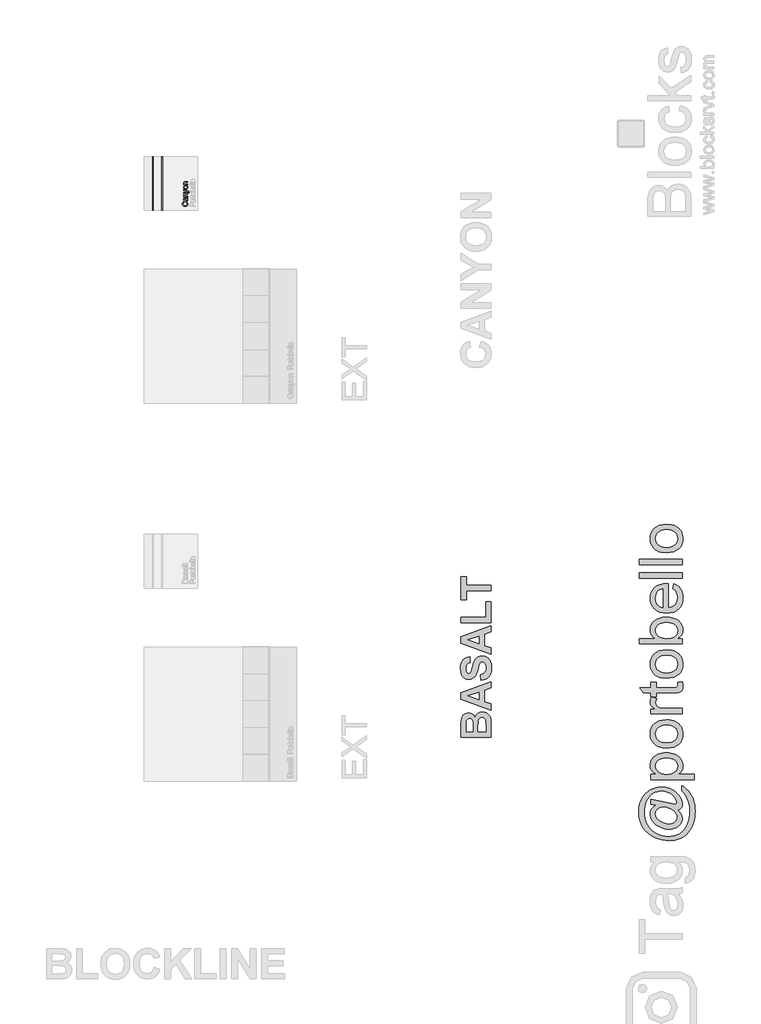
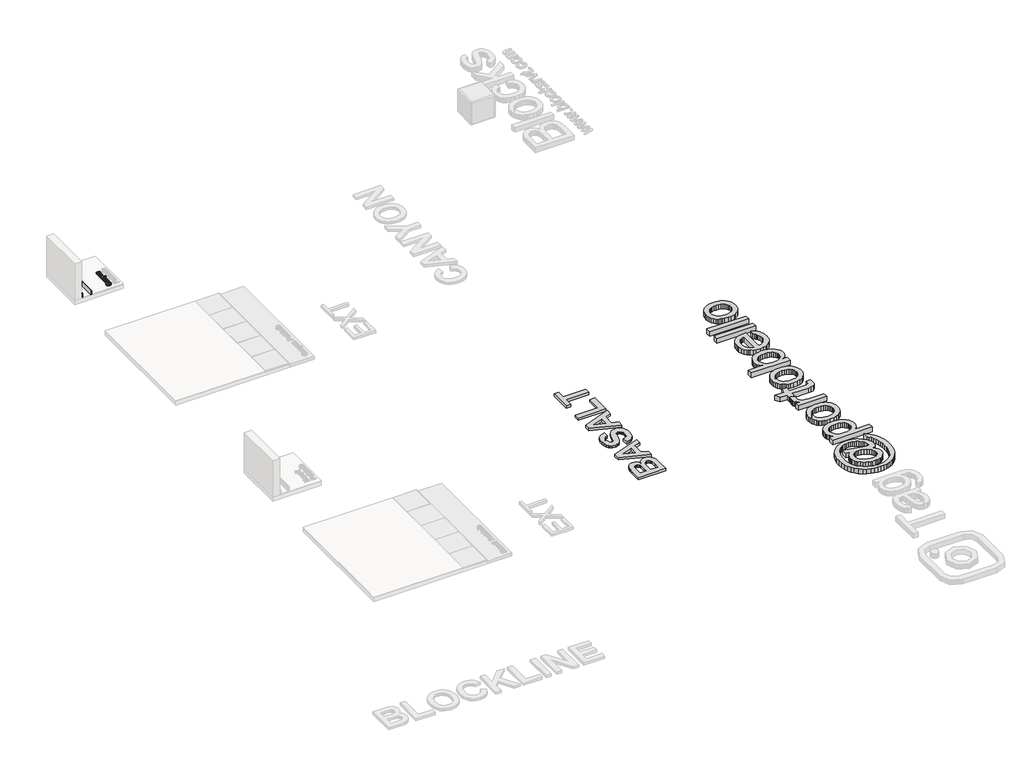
# One storey, part 5 of 6: 5 proxies.
"""IFC4 building model written with IfcOpenShell, lengths in millimetres."""

import ifcopenshell
import ifcopenshell.guid

model = None  # the IFC model being written
_history = None  # IfcOwnerHistory: only IFC2X3 demands one
_inside = {}  # id of a spatial element -> (the spatial element, [elements in it])
_under = {}  # id of a project, library or spatial element -> (it, [spatial elements below it])
_declared = {}  # id of a project -> (the project, [libraries it declares])
_typed = {}  # id of a type object -> (the type object, [elements of that type])
_made_of = {}  # id of a material, layer set ... -> (it, [elements and type objects made of it])


def new_model(schema):
    """Start an empty IFC model of exactly this schema.

    Asked for "IFC4X3", IfcOpenShell would pick the latest addendum, in which some entities
    have other attributes; the version numbers below select the first issue.
    IFC2X3 requires an IfcOwnerHistory on every rooted entity: one is made here for all.
    """
    global model, _history
    if schema == "IFC4X3":
        model = ifcopenshell.file(schema_version=(4, 3, 0, 0))
    else:
        model = ifcopenshell.file(schema=schema)
    _inside.clear()
    _under.clear()
    _declared.clear()
    _typed.clear()
    _made_of.clear()
    _history = None
    if model.schema == "IFC2X3":
        org = make("IfcOrganization", Name="unknown")
        user = make(
            "IfcPersonAndOrganization",
            ThePerson=make("IfcPerson", FamilyName="unknown"),
            TheOrganization=org,
        )
        app = make(
            "IfcApplication",
            ApplicationDeveloper=org,
            Version="unknown",
            ApplicationFullName="unknown",
            ApplicationIdentifier="unknown",
        )
        _history = make(
            "IfcOwnerHistory",
            OwningUser=user,
            OwningApplication=app,
            ChangeAction="ADDED",
            CreationDate=0,
        )
    return model


def make(cls, **values):
    """One entity of the class cls with the attributes given. An attribute that is None is left unset."""
    return model.create_entity(
        cls, **{name: value for name, value in values.items() if value is not None}
    )


def rooted(cls, **values):
    """An entity with a GlobalId (a new one), such as an element, a storey or a relation."""
    return make(cls, GlobalId=ifcopenshell.guid.new(), OwnerHistory=_history, **values)


def si_unit(unit_type, name, prefix=None):
    """IfcSIUnit, for example si_unit("LENGTHUNIT", "METRE", prefix="MILLI")."""
    return make("IfcSIUnit", UnitType=unit_type, Prefix=prefix, Name=name)


def assignment(units):
    """IfcUnitAssignment: the units of a project."""
    return None if units is None else make("IfcUnitAssignment", Units=units)


def point(xyz):
    """IfcCartesianPoint."""
    return None if xyz is None else make("IfcCartesianPoint", Coordinates=xyz)


def direction(xyz):
    """IfcDirection."""
    return None if xyz is None else make("IfcDirection", DirectionRatios=xyz)


def frame(location, z_axis=None, x_axis=None):
    """IfcAxis2Placement3D, a coordinate frame: its origin and axes. An axis left out is left unset."""
    return make(
        "IfcAxis2Placement3D",
        Location=point(location),
        Axis=direction(z_axis),
        RefDirection=direction(x_axis),
    )


def frame_2d(location, x_axis=None):
    """IfcAxis2Placement2D, a coordinate frame in the plane: its origin and x axis."""
    return make(
        "IfcAxis2Placement2D", Location=point(location), RefDirection=direction(x_axis)
    )


def origin():
    """The frame at (0, 0, 0) with its axes left unset."""
    return frame((0.0, 0.0, 0.0))


def origin_with_axes():
    """The frame at (0, 0, 0) with the z axis (0, 0, 1) and the x axis (1, 0, 0) written out."""
    return frame((0.0, 0.0, 0.0), z_axis=(0.0, 0.0, 1.0), x_axis=(1.0, 0.0, 0.0))


def place(relative_to, where):
    """IfcLocalPlacement: puts the frame where relative to a parent placement (None: the world)."""
    return make(
        "IfcLocalPlacement", PlacementRelTo=relative_to, RelativePlacement=where
    )


def context(
    kind, dimensions, precision=None, world=None, true_north=None, identifier=None
):
    """IfcGeometricRepresentationContext, for example the 3D "Model" context."""
    return make(
        "IfcGeometricRepresentationContext",
        ContextIdentifier=identifier,
        ContextType=kind,
        CoordinateSpaceDimension=dimensions,
        Precision=precision,
        WorldCoordinateSystem=world,
        TrueNorth=true_north,
    )


def project(units=None, contexts=None):
    """IfcProject with its units and contexts."""
    return rooted(
        "IfcProject",
        Name="project",
        RepresentationContexts=contexts,
        UnitsInContext=assignment(units),
    )


def spatial(cls, under=None, at=None, **own):
    """A site, building, storey or space (cls), placed at a placement, below another one or the project."""
    s = rooted(cls, ObjectPlacement=at, **own)
    if under is not None:
        _under.setdefault(under.id(), (under, []))[1].append(s)
    return s


def polyline(points):
    """IfcPolyline through the points."""
    return make("IfcPolyline", Points=[point(p) for p in points])


def circle_curve(where, radius):
    """IfcCircle in the frame where."""
    return make("IfcCircle", Position=where, Radius=radius)


def trimmed(basis, trim1, trim2, sense, master):
    """IfcTrimmedCurve: the piece of a basis curve between two trims."""
    return make(
        "IfcTrimmedCurve",
        BasisCurve=basis,
        Trim1=trim1,
        Trim2=trim2,
        SenseAgreement=sense,
        MasterRepresentation=master,
    )


def segment(curve, same_sense, transition):
    """IfcCompositeCurveSegment."""
    return make(
        "IfcCompositeCurveSegment",
        Transition=transition,
        SameSense=same_sense,
        ParentCurve=curve,
    )


def composite_curve(segments, self_intersect=None):
    """IfcCompositeCurve: segments joined end to end."""
    return make("IfcCompositeCurve", Segments=segments, SelfIntersect=self_intersect)


def outline(outer, holes=None, kind="AREA"):
    """IfcArbitraryClosedProfileDef: a profile drawn as a closed curve; with holes, ...WithVoids."""
    if holes is None:
        return make("IfcArbitraryClosedProfileDef", ProfileType=kind, OuterCurve=outer)
    return make(
        "IfcArbitraryProfileDefWithVoids",
        ProfileType=kind,
        OuterCurve=outer,
        InnerCurves=holes,
    )


def extrude(swept, where, along, depth):
    """IfcExtrudedAreaSolid: the profile swept, set in the frame where, extruded along a direction by depth."""
    return make(
        "IfcExtrudedAreaSolid",
        SweptArea=swept,
        Position=where,
        ExtrudedDirection=direction(along),
        Depth=depth,
    )


def shape(context_of_items, identifier, shape_type, items):
    """IfcShapeRepresentation: the items that make up one representation, for example the "Body"."""
    return make(
        "IfcShapeRepresentation",
        ContextOfItems=context_of_items,
        RepresentationIdentifier=identifier,
        RepresentationType=shape_type,
        Items=items,
    )


def source(mapping_origin, context_of_items, identifier, shape_type, items):
    """IfcRepresentationMap: a shape defined once, which mapped items show again and again."""
    return make(
        "IfcRepresentationMap",
        MappingOrigin=mapping_origin,
        MappedRepresentation=shape(context_of_items, identifier, shape_type, items),
    )


def transform(
    local_origin,
    x_axis=None,
    y_axis=None,
    z_axis=None,
    scale=None,
    scale2=None,
    scale3=None,
    uniform=True,
):
    """IfcCartesianTransformationOperator3D, or its non-uniform kind. x_axis, y_axis, z_axis: its Axis1, 2, 3."""
    if uniform:
        return make(
            "IfcCartesianTransformationOperator3D",
            Axis1=direction(x_axis),
            Axis2=direction(y_axis),
            LocalOrigin=point(local_origin),
            Scale=scale,
            Axis3=direction(z_axis),
        )
    return make(
        "IfcCartesianTransformationOperator3DnonUniform",
        Axis1=direction(x_axis),
        Axis2=direction(y_axis),
        LocalOrigin=point(local_origin),
        Scale=scale,
        Axis3=direction(z_axis),
        Scale2=scale2,
        Scale3=scale3,
    )


def mapped(mapping_source, mapping_target):
    """IfcMappedItem: shows the shape of a source again, moved by a transform."""
    return make(
        "IfcMappedItem", MappingSource=mapping_source, MappingTarget=mapping_target
    )


def made_of(thing, what):
    """Note that an element or type object is made of a material, layer set ...; save() writes the relation."""
    if what is not None:
        _made_of.setdefault(what.id(), (what, []))[1].append(thing)
    return thing


def element(
    cls,
    number,
    at=None,
    inside=None,
    cuts=None,
    type_object=None,
    material=None,
    context=None,
    identifier="Body",
    shape_type=None,
    held_by="IfcProductDefinitionShape",
    body=None,
    shapes=None,
    **own,
):
    """One element of the class cls, such as IfcWall. Its Tag is "e" and its number.

    at: its placement. inside: the storey or other place that contains it. cuts: it is an
    opening in that element (IfcRelVoidsElement). A single representation is given by context,
    identifier, shape_type and body (its items); several are given by shapes. held_by: the class
    of the entity that holds the representations. save() writes the other relations.
    """
    e = rooted(cls, Tag="e%d" % number, ObjectPlacement=at, **own)
    if body is not None:
        shapes = [shape(context, identifier, shape_type, body)]
    if shapes is not None:
        e.Representation = make(held_by, Representations=shapes)
    if inside is not None:
        _inside.setdefault(inside.id(), (inside, []))[1].append(e)
    if cuts is not None:
        rooted(
            "IfcRelVoidsElement", RelatingBuildingElement=cuts, RelatedOpeningElement=e
        )
    if type_object is not None:
        _typed.setdefault(type_object.id(), (type_object, []))[1].append(e)
    return made_of(e, material)


def aggregate(whole, parts):
    """IfcRelAggregates: a whole, such as a stair, and the parts it consists of."""
    return rooted("IfcRelAggregates", RelatingObject=whole, RelatedObjects=parts)


def save(model, path):
    """Write the relations noted so far, then the file.

    IfcRelAggregates (storeys below a building ...), IfcRelContainedInSpatialStructure (elements
    in a storey), IfcRelDefinesByType, IfcRelAssociatesMaterial and IfcRelDeclares: one each for
    every whole, place, type object, material and project.
    """
    for whole, parts in _under.values():
        aggregate(whole, parts)
    for where, things in _inside.values():
        rooted(
            "IfcRelContainedInSpatialStructure",
            RelatedElements=things,
            RelatingStructure=where,
        )
    for kind, things in _typed.values():
        rooted("IfcRelDefinesByType", RelatedObjects=things, RelatingType=kind)
    for what, things in _made_of.values():
        rooted("IfcRelAssociatesMaterial", RelatedObjects=things, RelatingMaterial=what)
    for by, libraries in _declared.values():
        rooted("IfcRelDeclares", RelatingContext=by, RelatedDefinitions=libraries)
    model.write(path)


def skirt_basalt_be9242f7(model_context):
    return source(origin(), model_context, "Body", "SweptSolid", [
        extrude(outline(composite_curve([segment(polyline([(0.0, 99.9999099), (0.0, 0.0), (-20.0, 0.0), (-20.0, 86.2999099)]), True, "CONTINUOUS"), segment(trimmed(circle_curve(frame_2d((-6.3, 86.2999099)), 13.7), [point((-20.0, 86.2999099))], [point((-6.3, 99.9999099))], False, "CARTESIAN"), True, "CONTINUOUS"), segment(polyline([(-6.3, 99.9999099), (0.0, 99.9999099)]), True, "CONTINUOUS")], self_intersect=False)), frame((0.0, 0.0, 0.0), z_axis=(1.0, 0.0, 0.0), x_axis=(0.0, 1.0, 0.0)), (0.0, 0.0, 1.0), 1000.0),
    ])


model = new_model("IFC4")

# Units and contexts
model_context = context("Model", 3, world=origin())
ifc_project = project(units=[si_unit("LENGTHUNIT", "METRE", prefix="MILLI")], contexts=[model_context])

# Site, building, storey
site = spatial("IfcSite", under=ifc_project)
building = spatial("IfcBuilding", under=site)
storey = spatial("IfcBuildingStorey", under=building, Name="PORTOBELLO - SHOWROOM", Elevation=0.0)

# Proxies
placement = place(None, origin())
element("IfcBuildingElementProxy", 1, Name="RODAPÉ BLOCKLINE SKIRT CANYON 50X10 EXT BOLD", ObjectType="RODAPÉ BLOCKLINE SKIRT CANYON 50X10 EXT BOLD", at=placement, inside=storey, context=model_context, shape_type="SweptSolid", body=[
    extrude(outline(composite_curve([segment(polyline([(115.9999099, -5641.9813168), (16.0, -5641.9813168), (16.0, -5621.9813168), (102.2999099, -5621.9813168)]), True, "CONTINUOUS"), segment(trimmed(circle_curve(frame_2d((102.2999099, -5635.6813168)), 13.7), [point((102.2999099, -5621.9813168))], [point((115.9999099, -5635.6813168))], False, "CARTESIAN"), True, "CONTINUOUS"), segment(polyline([(115.9999099, -5635.6813168), (115.9999099, -5641.9813168)]), True, "CONTINUOUS")], self_intersect=False)), frame((0.0, 2198.391761, 0.0), z_axis=(0.0, 1.0, 0.0), x_axis=(0.0, 0.0, 1.0)), (0.0, 0.0, 1.0), 1000.0),
])
element("IfcBuildingElementProxy", 2, Name="10mm Arial", ObjectType="10mm Arial", at=placement, inside=storey, context=model_context, shape_type="SweptSolid", body=[
    extrude(outline(polyline([(-5014.5282324, 2346.6708953), (-5011.2908709, 2359.227934), (-4996.6583645, 2353.4337926), (-4985.9683269, 2344.340976), (-4979.4292244, 2332.3970738), (-4977.2495236, 2318.049676), (-4978.8988612, 2303.4846147), (-4983.846874, 2291.9177916), (-4991.9218838, 2283.0518356), (-5002.9522123, 2276.5893752), (-5029.807598, 2271.3286626), (-5044.4554327, 2272.815519), (-5057.104442, 2277.2760882), (-5067.3530212, 2284.4773783), (-5074.799566, 2294.1863973), (-5079.3337116, 2305.7011037), (-5080.8450934, 2318.3194562), (-5078.8891875, 2332.0874398), (-5073.0214697, 2343.4703219), (-5063.6036906, 2352.1124831), (-5050.9976009, 2357.6583042), (-5048.005494, 2345.1012654), (-5063.444275, 2334.8005695), (-5068.2880546, 2317.8289468), (-5062.9169775, 2298.1840483), (-5048.4960033, 2287.0862748), (-5029.8321234, 2283.8857014), (-5008.2006621, 2287.674886), (-4994.3805618, 2299.4716353), (-4989.8065623, 2316.7988772), (-4991.3639295, 2327.2804484), (-4996.0360308, 2336.0145801), (-5003.7738154, 2342.6088649), (-5014.5282324, 2346.6708953)])), frame((0.0, 0.0, 16.0), z_axis=(0.0, 0.0, 1.0), x_axis=(1.0, 0.0, 0.0)), (0.0, 0.0, 1.0), 20.0),
    extrude(outline(polyline([(-4988.2369325, 2422.0131279), (-4979.7265957, 2409.8362338), (-4977.2495236, 2396.3840155), (-4978.7394457, 2385.8901816), (-4983.2092119, 2378.1493313), (-4989.9966347, 2373.3760624), (-4998.4395265, 2371.7849728), (-5008.3723404, 2374.1884685), (-5015.5828275, 2380.5037761), (-5019.7031058, 2389.2961558), (-5021.5915667, 2400.1609374), (-5025.9080488, 2421.9395515), (-5028.703952, 2422.0131279), (-5037.9745782, 2418.5550371), (-5041.6043473, 2404.6736232), (-5039.1885888, 2391.9694316), (-5030.6169383, 2385.9116414), (-5032.1865682, 2373.3546026), (-5044.4493014, 2378.7869934), (-5051.635263, 2389.7253514), (-5054.161386, 2406.2923039), (-5051.9295686, 2421.5103558), (-5046.3254995, 2430.1065318), (-5037.8029, 2433.95703), (-5026.8154911, 2434.5701666), (-5011.192769, 2434.5701666), (-4989.3773667, 2435.2078288), (-4978.8191534, 2437.7094263), (-4978.8191534, 2425.1523876), (-4988.2369325, 2422.0131279)]), holes=[polyline([(-5013.35101, 2422.0131279), (-5009.5005118, 2401.7550927), (-5007.4648981, 2390.9516247), (-5004.1539602, 2386.0587942), (-4999.3224433, 2384.3420116), (-4992.5288891, 2388.0821452), (-4989.8065623, 2399.0572914), (-4992.810932, 2411.7614829), (-5000.0827327, 2419.9529887), (-5009.7948174, 2421.9395515), (-5013.35101, 2422.0131279)])]), frame((0.0, 0.0, 16.0), z_axis=(0.0, 0.0, 1.0), x_axis=(1.0, 0.0, 0.0)), (0.0, 0.0, 1.0), 20.0),
    extrude(outline(polyline([(-4978.8191534, 2451.8360949), (-5052.5917562, 2451.8360949), (-5052.5917562, 2464.3931337), (-5042.2910603, 2464.3931337), (-5051.1938046, 2473.9948538), (-5054.161386, 2487.1037155), (-5051.7701531, 2498.9617785), (-5045.4916337, 2507.0551824), (-5036.2577956, 2510.8198415), (-5024.1176898, 2511.4820291), (-4978.8191534, 2511.4820291), (-4978.8191534, 2498.9249903), (-5022.4254326, 2498.9249903), (-5033.5354688, 2497.4779878), (-5039.409318, 2492.3644281), (-5041.6043473, 2483.7437267), (-5036.6747285, 2470.1198301), (-5029.5316865, 2465.8248078), (-5017.9617977, 2464.3931337), (-4978.8191534, 2464.3931337), (-4978.8191534, 2451.8360949)])), frame((0.0, 0.0, 16.0), z_axis=(0.0, 0.0, 1.0), x_axis=(1.0, 0.0, 0.0)), (0.0, 0.0, 1.0), 20.0),
    extrude(outline(polyline([(-4950.5658162, 2528.7479574), (-4962.6568711, 2527.1783276), (-4961.5532251, 2533.5549488), (-4962.938914, 2539.5146371), (-4966.8016749, 2543.1689316), (-4976.0477757, 2546.6024969), (-4979.0889336, 2547.5835156), (-5052.5917562, 2520.8998082), (-5052.5917562, 2534.1190345), (-5011.6097019, 2548.2947541), (-4995.2266904, 2553.2243728), (-5009.721241, 2558.1539915), (-5052.5917562, 2572.6975931), (-5052.5917562, 2585.8187176), (-4977.0533198, 2560.1405543), (-4960.6703083, 2553.4696275), (-4951.816615, 2546.185564), (-4948.9961863, 2536.4244284), (-4950.5658162, 2528.7479574)])), frame((0.0, 0.0, 16.0), z_axis=(0.0, 0.0, 1.0), x_axis=(1.0, 0.0, 0.0)), (0.0, 0.0, 1.0), 20.0),
    extrude(outline(polyline([(-5015.7054548, 2593.1027811), (-5033.4925493, 2595.8189765), (-5045.9944057, 2603.9675627), (-5052.119641, 2614.0352666), (-5054.161386, 2626.0895333), (-5051.6751169, 2639.2811685), (-5044.2163094, 2649.817922), (-5032.3735749, 2656.7249065), (-5016.7355244, 2659.0272346), (-4994.3928246, 2654.9560072), (-4981.7499467, 2643.0979442), (-4977.2495236, 2626.0895333), (-4979.7265957, 2612.7384826), (-4987.157812, 2602.2139918), (-4999.2488669, 2595.3805838), (-5015.7054548, 2593.1027811)]), holes=[polyline([(-5015.7299803, 2605.6598199), (-5004.3654923, 2607.1129537), (-4996.2690227, 2611.4723554), (-4991.4221774, 2618.0329176), (-4989.8065623, 2626.0895333), (-4991.4313745, 2634.1093608), (-4996.3058109, 2640.6576603), (-5004.5095794, 2645.017062), (-5016.1223877, 2646.4701959), (-5027.1557819, 2645.0078649), (-5035.1418869, 2640.6208721), (-5039.9887322, 2634.0633756), (-5041.6043473, 2626.0895333), (-5039.9948635, 2618.0329176), (-5035.1664124, 2611.4723554), (-5027.0883369, 2607.1129537), (-5015.7299803, 2605.6598199)])]), frame((0.0, 0.0, 16.0), z_axis=(0.0, 0.0, 1.0), x_axis=(1.0, 0.0, 0.0)), (0.0, 0.0, 1.0), 20.0),
    extrude(outline(polyline([(-4978.8191534, 2673.1539032), (-5052.5917562, 2673.1539032), (-5052.5917562, 2685.710942), (-5042.2910603, 2685.710942), (-5051.1938046, 2695.3126621), (-5054.161386, 2708.4215238), (-5051.7701531, 2720.2795868), (-5045.4916337, 2728.3729907), (-5036.2577956, 2732.1376498), (-5024.1176898, 2732.7998374), (-4978.8191534, 2732.7998374), (-4978.8191534, 2720.2427986), (-5022.4254326, 2720.2427986), (-5033.5354688, 2718.7957961), (-5039.409318, 2713.6822364), (-5041.6043473, 2705.061535), (-5036.6747285, 2691.4376384), (-5029.5316865, 2687.1426161), (-5017.9617977, 2685.710942), (-4978.8191534, 2685.710942), (-4978.8191534, 2673.1539032)])), frame((0.0, 0.0, 16.0), z_axis=(0.0, 0.0, 1.0), x_axis=(1.0, 0.0, 0.0)), (0.0, 0.0, 1.0), 20.0),
])
element("IfcBuildingElementProxy", 3, Name="550mm Arial", ObjectType="550mm Arial", at=placement, inside=storey, context=model_context, shape_type="SweptSolid", body=[
    extrude(outline(polyline([(108.0992, -7609.1746393), (108.0992, -7378.8445007), (109.4909229, -7319.1917782), (113.6660916, -7276.9007989), (122.2773769, -7245.0651377), (136.97745, -7216.7783699), (157.6445349, -7192.4754089), (184.156856, -7172.5911681), (215.3836384, -7159.3350076), (250.1941072, -7154.9162874), (288.118556, -7160.1874378), (322.8420422, -7176.0008892), (351.8246714, -7200.8605394), (372.5265494, -7233.2702862), (381.2770071, -7211.4376333), (392.6369452, -7192.284047), (406.6063637, -7175.8095273), (423.1852627, -7162.0140741), (441.8604442, -7151.1151442), (462.1187106, -7143.3301943), (483.9600617, -7138.6592244), (507.3844976, -7137.1022344), (544.9784123, -7141.5731442), (581.4937416, -7154.9858735), (613.8512989, -7176.1400615), (638.9718971, -7203.835347), (656.3510367, -7238.4022644), (665.4842182, -7280.1713477), (669.24187, -7417.3952248), (669.24187, -7609.1746393), (108.0992, -7609.1746393)]), holes=[polyline([(206.0764916, -7502.2903212), (330.7748627, -7502.2903212), (330.7748627, -7420.7353597), (328.9656229, -7330.2733718), (322.4593184, -7301.7952421), (309.6206747, -7280.1017615), (291.0759672, -7266.3758945), (267.4514711, -7261.8006055), (244.8533706, -7265.7496192), (226.8827488, -7277.5966603), (214.3050532, -7297.2025565), (207.8857313, -7324.4281356), (206.0764916, -7430.7557645), (206.0764916, -7502.2903212)]), polyline([(428.7521543, -7502.2903212), (571.2645784, -7502.2903212), (571.2645784, -7389.2824224), (567.9244434, -7305.5007043), (560.4613294, -7280.7628299), (546.7006693, -7261.104744), (526.9208077, -7248.2661004), (501.4000892, -7243.9865525), (479.2716952, -7247.2918943), (460.7617808, -7257.2079199), (446.3226558, -7273.3519055), (436.4066302, -7295.3411272), (430.6657732, -7334.8660573), (428.7521543, -7403.6171682), (428.7521543, -7502.2903212)])]), origin_with_axes(), (0.0, 0.0, 1.0), 50.0),
    extrude(outline(polyline([(669.24187, -6575.9595644), (669.24187, -6688.2716018), (544.5434989, -6732.2500452), (544.5434989, -6944.0702693), (669.24187, -6987.4920235), (669.24187, -7101.4741283), (108.0992, -6896.8908633), (108.0992, -6782.7695861), (669.24187, -6575.9595644)]), holes=[polyline([(446.5662073, -6766.4864283), (241.7045976, -6838.7168464), (446.5662073, -6909.9730584), (446.5662073, -6766.4864283)])]), origin_with_axes(), (0.0, 0.0, 1.0), 50.0),
    extrude(outline(polyline([(482.1943133, -6549.2384849), (473.2872868, -6442.3541668), (499.0167638, -6435.8826553), (521.0929681, -6426.7668704), (539.5158999, -6415.006812), (554.2855591, -6400.60248), (565.6107041, -6383.5103833), (573.7000934, -6363.6870303), (578.553727, -6341.1324212), (580.1716049, -6315.8465559), (578.7407398, -6289.273347), (574.4481445, -6266.1968418), (567.293819, -6246.6170403), (557.2777633, -6230.5339427), (545.3480887, -6217.9910401), (532.4529062, -6209.031824), (518.5922161, -6203.6562943), (503.7660181, -6201.8644511), (485.5866379, -6204.8392588), (470.2950826, -6213.7636818), (457.3694562, -6230.1338223), (446.2878627, -6255.4457824), (422.4894012, -6348.134527), (410.8772134, -6391.1561609), (397.8906991, -6427.2539734), (383.5298585, -6456.4279645), (367.7946916, -6478.6781343), (343.4308427, -6501.7546395), (316.5444961, -6518.2378575), (287.1356517, -6528.1277883), (255.2043096, -6531.4244319), (213.8701398, -6525.3704373), (175.3194157, -6507.2084535), (157.8445951, -6493.7609311), (142.5791346, -6477.6343421), (129.5230343, -6458.8286865), (118.676294, -6437.3439644), (104.0632036, -6386.9983888), (99.1921735, -6327.2586836), (102.227869, -6277.8394736), (111.3349557, -6234.9352663), (126.5134335, -6198.5460618), (147.7633024, -6168.6718601), (174.0755633, -6145.2169803), (204.4412172, -6128.0857413), (238.8602639, -6117.2781432), (277.3327036, -6112.794186), (277.3327036, -6219.6785041), (240.6086158, -6231.4907521), (226.7479256, -6240.6195845), (215.888138, -6251.896889), (207.6987186, -6265.7923723), (201.8491333, -6282.7757407), (197.1694651, -6326.006133), (202.1448744, -6371.5154716), (208.3641361, -6390.0949722), (217.0711024, -6405.891027), (232.0321235, -6419.8778421), (251.3074856, -6424.5401138), (269.5042624, -6420.295359), (284.8480072, -6407.5610945), (293.7593829, -6392.9262585), (302.8186291, -6370.5934552), (321.3807332, -6302.8339469), (340.6908883, -6230.5165461), (360.9056633, -6179.8752294), (385.3825896, -6144.3862957), (417.4791988, -6117.5260438), (436.4849146, -6107.6622078), (457.5956112, -6100.6166107), (506.131947, -6094.980133), (529.686857, -6096.6458513), (552.4763193, -6101.6430063), (574.5003341, -6109.971598), (595.7589013, -6121.6316264), (615.2952114, -6136.3403977), (632.1524549, -6153.8152182), (646.3306319, -6174.0560881), (657.8297422, -6197.0630071), (666.7193722, -6222.953402), (673.0691079, -6251.8446994), (678.1488965, -6318.6300017), (675.0218691, -6368.575457), (665.640787, -6412.3625385), (650.0056501, -6449.9912462), (628.1164585, -6481.46158), (600.2341602, -6506.9909968), (566.6197032, -6526.7969532), (527.2730876, -6540.8794493), (482.1943133, -6549.2384849)])), origin_with_axes(), (0.0, 0.0, 1.0), 50.0),
    extrude(outline(polyline([(669.24187, -5533.837463), (669.24187, -5646.1495004), (544.5434989, -5690.1279438), (544.5434989, -5901.9481679), (669.24187, -5945.3699221), (669.24187, -6059.352027), (108.0992, -5854.7687619), (108.0992, -5740.6474847), (669.24187, -5533.837463)]), holes=[polyline([(446.5662073, -5724.3643269), (241.7045976, -5796.594745), (446.5662073, -5867.8509571), (446.5662073, -5724.3643269)])]), origin_with_axes(), (0.0, 0.0, 1.0), 50.0),
    extrude(outline(polyline([(669.24187, -5480.395304), (108.0992, -5480.395304), (108.0992, -5373.5109859), (571.2645784, -5373.5109859), (571.2645784, -5088.4861376), (669.24187, -5088.4861376), (669.24187, -5480.395304)])), origin_with_axes(), (0.0, 0.0, 1.0), 50.0),
    extrude(outline(polyline([(669.24187, -4883.624528), (206.0764916, -4883.624528), (206.0764916, -5043.9510051), (108.0992, -5043.9510051), (108.0992, -4616.4137327), (206.0764916, -4616.4137327), (206.0764916, -4776.7402099), (669.24187, -4776.7402099), (669.24187, -4883.624528)])), origin_with_axes(), (0.0, 0.0, 1.0), 50.0),
])
element("IfcBuildingElementProxy", 4, Name="80mm Arial", ObjectType="80mm Arial", at=placement, inside=storey, context=model_context, shape_type="SweptSolid", body=[
    extrude(outline(polyline([(4138.7049223, -8955.7052888), (4176.0054997, -8992.9570753), (4205.1580111, -9034.4536627), (4223.96687, -9078.1458368), (4230.2364896, -9121.9843833), (4228.4434272, -9145.9162776), (4223.0642399, -9169.5066362), (4214.0989278, -9192.7554591), (4201.5474909, -9215.6627463), (4185.2757544, -9237.3319667), (4165.1495436, -9256.8665889), (4141.1688584, -9274.2666129), (4113.333699, -9289.5320389), (4082.8394402, -9301.9553999), (4050.8814569, -9310.8292293), (4017.4597493, -9316.1535268), (3982.5743172, -9317.9282927), (3938.7357707, -9315.1777106), (3894.8484334, -9306.9259641), (3850.9123053, -9293.1730534), (3806.9273864, -9273.9189784), (3765.6625554, -9250.5725738), (3729.8866909, -9224.5426745), (3699.5997931, -9195.8292804), (3674.8018618, -9164.4323915), (3655.5050948, -9131.9316105), (3641.7216898, -9099.9065399), (3633.4516468, -9068.3571797), (3630.6949658, -9037.28353), (3632.2623707, -9014.120091), (3636.9645855, -8991.4689555), (3655.7734443, -8947.7035953), (3669.9532746, -8927.0772786), (3687.4142872, -8907.9390818), (3732.1798592, -8874.1270476), (3643.1854143, -8855.7817015), (3643.1854143, -8755.8581142), (4009.7020098, -8838.6073349), (4094.2076999, -8855.7817015), (4107.9911049, -8852.9762297), (4119.6765048, -8844.5598142), (4127.6538029, -8832.1913429), (4130.3129023, -8817.5297032), (4128.3368743, -8801.8556542), (4122.4087904, -8783.9128323), (4098.6964548, -8741.22087), (4076.3319653, -8711.6231423), (4050.4179442, -8685.2822016), (4020.9543913, -8662.1980477), (3987.9413067, -8642.3706806), (3952.879008, -8626.4465786), (3917.2678125, -8615.0722201), (3881.1077204, -8608.247605), (3844.3987316, -8605.9727332), (3801.9751188, -8608.9001821), (3760.9664395, -8617.6825286), (3721.3726939, -8632.3197729), (3683.1938818, -8652.8119148), (3647.5948841, -8679.1162624), (3615.7405813, -8711.1901239), (3587.6309735, -8749.0334991), (3563.2660607, -8792.646388), (3543.5850661, -8840.3577054), (3529.5272128, -8890.4963657), (3521.0925008, -8943.0623691), (3518.2809301, -8998.0557154), (3521.8487584, -9060.7885047), (3532.5522433, -9120.7646129), (3550.3913847, -9177.9840401), (3575.3661826, -9232.4467864), (3607.0009267, -9282.5427548), (3644.8199065, -9326.6618484), (3688.823122, -9364.8040674), (3739.0105732, -9396.9694116), (3793.241563, -9422.499205), (3849.3753947, -9440.7347718), (3907.4120681, -9451.6761119), (3967.3515832, -9455.3232252), (4029.0414688, -9451.712705), (4086.2791926, -9440.8811443), (4139.0647546, -9422.828543), (4187.3981548, -9397.5549013), (4230.4926414, -9365.4444468), (4267.5614624, -9326.8814071), (4298.6046179, -9281.8657822), (4323.6221078, -9230.3975722), (4342.8761828, -9174.2332463), (4356.6290935, -9115.1292739), (4364.88084, -9053.0856549), (4367.6314221, -8988.1023893), (4364.8991365, -8919.8562381), (4356.7022798, -8857.3917983), (4343.0408518, -8800.7090701), (4323.9148527, -8749.8080532), (4300.8855884, -8704.8107249), (4275.5143651, -8665.8390622), (4247.8011827, -8632.8930649), (4217.7460412, -8605.9727332), (4217.7460412, -8506.049146), (4247.0571228, -8522.2781905), (4276.6365538, -8543.447305), (4306.4843343, -8569.5564894), (4336.6004644, -8600.6057437), (4365.2711665, -8635.7168333), (4390.7826634, -8674.0115235), (4413.1349551, -8715.4898144), (4432.3280416, -8760.1517058), (4447.73984, -8808.7717521), (4458.7482675, -8862.1245073), (4465.3533239, -8920.2099715), (4467.5550094, -8983.0281447), (4465.6094757, -9041.8759653), (4459.7728746, -9098.3940246), (4450.045206, -9152.5823225), (4436.42647, -9204.4408591), (4418.9105678, -9253.2621675), (4397.4914004, -9298.3387808), (4372.1689678, -9339.6706992), (4342.9432702, -9377.2579227), (4310.5766639, -9410.7650143), (4275.8315054, -9439.8565372), (4238.7077947, -9464.5324914), (4199.2055318, -9484.792877), (4146.657825, -9504.6873314), (4092.060904, -9518.897656), (4035.4147689, -9527.4238508), (3976.7194195, -9530.2659157), (3910.9615998, -9526.8749541), (3846.7894815, -9516.7020694), (3784.2030647, -9499.7472615), (3723.2023494, -9476.0105304), (3653.6571427, -9439.5515946), (3592.7601079, -9396.1399677), (3540.5112448, -9345.7756499), (3496.9105536, -9288.458641), (3462.5435239, -9224.4328952), (3437.9956455, -9153.9423665), (3423.2669185, -9076.9870549), (3418.3573428, -8993.5669605), (3421.7970952, -8928.1384788), (3432.1163524, -8866.1253541), (3449.3151144, -8807.5275863), (3473.3933812, -8752.3451756), (3504.2901642, -8701.6881128), (3541.944475, -8656.6663891), (3586.3563135, -8617.2800044), (3637.5256798, -8583.5289588), (3685.4016662, -8560.560683), (3735.3512621, -8544.1547718), (3787.3744676, -8534.311225), (3841.4712828, -8531.0300428), (3880.2020409, -8532.7316224), (3917.8411046, -8537.8363613), (3954.3884738, -8546.3442596), (3989.8441485, -8558.2553171), (4024.2081288, -8573.5695338), (4057.4804145, -8592.2869099), (4089.6610059, -8614.4074452), (4120.7499027, -8639.9311399), (4168.6502845, -8689.7465611), (4202.8648429, -8741.8063597), (4214.8399383, -8768.6779006), (4223.3935779, -8796.1105358), (4228.5257617, -8824.1042654), (4230.2364896, -8852.6590894), (4227.3578316, -8885.9832154), (4218.7218575, -8912.1838826), (4204.7676846, -8931.8465807), (4185.9344304, -8945.5567994), (4167.1987578, -8951.6068604), (4138.7049223, -8955.7052888)]), holes=[polyline([(3984.1356232, -9218.0047054), (4016.8498641, -9215.8152176), (4045.7096306, -9209.2467543), (4070.7149229, -9198.2993154), (4091.8657408, -9182.9729009), (4108.686374, -9164.8166192), (4120.7011119, -9145.3795786), (4127.9099547, -9124.6617792), (4130.3129023, -9102.6632209), (4126.0681015, -9071.6078677), (4113.333699, -9038.9424176), (4092.2560673, -9006.2281768), (4062.9815788, -8975.0264512), (4025.1199071, -8947.3376642), (3978.2807255, -8925.1622391), (3926.8552075, -8910.5981811), (3875.2345262, -8905.7434951), (3842.8069313, -8908.0183668), (3814.2216131, -8914.842982), (3789.4785715, -8926.2173405), (3768.5778065, -8942.1414425), (3751.9706332, -8961.334529), (3740.1083665, -8982.5158411), (3732.9910065, -9005.685379), (3730.6185531, -9030.8431425), (3734.7413769, -9064.3624318), (3747.1098483, -9095.8325069), (3768.5778065, -9125.8144622), (3799.9990908, -9154.869392), (3840.3246987, -9180.6309418), (3888.5056276, -9200.7327572), (3938.4674212, -9213.6867184), (3984.1356232, -9218.0047054)])]), origin_with_axes(), (0.0, 0.0, 1.0), 100.0),
    extrude(outline(polyline([(4455.064561, -8393.6351103), (3643.1854143, -8393.6351103), (3643.1854143, -8293.711523), (3741.157369, -8293.711523), (3692.8300676, -8261.1192591), (3673.8443421, -8243.3594028), (3658.3105666, -8224.6237302), (3646.2287413, -8204.3755423), (3637.598866, -8182.0781403), (3632.4209409, -8157.731524), (3630.6949658, -8131.3356936), (3633.1101111, -8096.4868546), (3640.355547, -8063.7604161), (3652.4312735, -8033.1563779), (3669.3372906, -8004.6747402), (3690.634481, -7978.9375857), (3715.8837273, -7956.5669975), (3745.0850295, -7937.5629754), (3778.2383877, -7921.9255195), (3814.2094154, -7909.7156182), (3851.8637262, -7900.9942602), (3891.2013201, -7895.7614454), (3932.222197, -7894.0171738), (3976.0790401, -7895.9871029), (4017.6793079, -7901.8968903), (4057.0230007, -7911.7465359), (4094.1101182, -7925.5360397), (4127.9709432, -7943.0763374), (4157.6357582, -7964.1783645), (4183.1045632, -7988.842121), (4204.3773581, -8017.067607), (4221.1552993, -8047.470383), (4233.139543, -8078.6660098), (4240.3300893, -8110.6544873), (4242.726938, -8143.4358155), (4241.12294, -8167.0200753), (4236.310946, -8189.372367), (4228.2909559, -8210.4926906), (4217.0629698, -8230.3810462), (4188.00804, -8265.486037), (4152.171187, -8293.711523), (4455.064561, -8293.711523), (4455.064561, -8393.6351103)]), holes=[polyline([(3941.3948701, -8293.711523), (3989.5514036, -8291.0097316), (4030.9748048, -8282.9043576), (4065.6650736, -8269.395401), (4093.6222101, -8250.4828617), (4115.1389591, -8227.715848), (4130.5080656, -8202.6434684), (4139.7295294, -8175.2657229), (4142.8033507, -8145.5826113), (4139.6197501, -8115.4725802), (4130.0689482, -8087.5947288), (4114.1509451, -8061.9490571), (4091.8657408, -8038.5355652), (4062.8961949, -8019.0253384), (4026.9251672, -8005.0894621), (3983.9526577, -7996.7279363), (3933.9786663, -7993.9407611), (3886.2368547, -7996.660849), (3844.8866398, -8004.8211126), (3809.9280215, -8018.4215521), (3781.3609998, -8037.4621673), (3759.1611794, -8060.2840706), (3743.3041648, -8085.2283743), (3733.7899561, -8112.2950784), (3730.6185531, -8141.4841829), (3733.9912182, -8170.5818047), (3744.1092132, -8197.9595503), (3760.9725384, -8223.6174196), (3784.5811935, -8247.5554128), (3814.6180385, -8267.748711), (3850.7659329, -8282.1724954), (3893.0248767, -8290.8267661), (3941.3948701, -8293.711523)])]), origin_with_axes(), (0.0, 0.0, 1.0), 100.0),
    extrude(outline(polyline([(3936.7109519, -7806.5840349), (3860.6826658, -7801.1804522), (3826.6114305, -7794.4259739), (3795.1688002, -7784.9697043), (3766.354775, -7772.8116433), (3740.169355, -7757.9517909), (3716.6125401, -7740.3901473), (3695.6843302, -7720.1267123), (3667.2514833, -7682.0454819), (3646.9423069, -7640.0121955), (3634.7568011, -7594.0268532), (3630.6949658, -7544.089455), (3635.6411346, -7488.9619339), (3650.479641, -7439.1160185), (3675.2104849, -7394.5517086), (3709.8336663, -7355.2690044), (3753.1782058, -7323.2073407), (3804.0731238, -7300.3061523), (3862.5184202, -7286.5654393), (3928.5140952, -7281.9852016), (3982.0010251, -7284.0100204), (4029.4622895, -7290.0844768), (4070.8978884, -7300.2085707), (4106.3078218, -7314.3823022), (4136.8935634, -7332.4288046), (4163.856587, -7354.1712111), (4187.1968927, -7379.6095218), (4206.9144805, -7408.7437367), (4222.5824306, -7440.4394693), (4233.7738236, -7473.5623332), (4240.4886594, -7508.1123285), (4242.726938, -7544.089455), (4237.7990658, -7600.0220245), (4223.0154491, -7650.3314527), (4198.376088, -7695.0177396), (4163.8809824, -7734.0808851), (4120.1156222, -7765.8010132), (4067.665497, -7788.4582475), (4006.5306069, -7802.052588), (3936.7109519, -7806.5840349)]), holes=[polyline([(3936.5157887, -7706.6604476), (3984.9833636, -7703.7695919), (4026.9495626, -7695.0970247), (4062.4143856, -7680.642746), (4091.3778326, -7660.4067558), (4113.8764968, -7635.7917901), (4129.9469712, -7608.2005847), (4139.5892558, -7577.6331397), (4142.8033507, -7544.089455), (4139.5709593, -7510.7165382), (4129.873785, -7480.2710702), (4113.7118278, -7452.753051), (4091.0850878, -7428.1624807), (4061.8349947, -7407.9264905), (4025.8029785, -7393.4722119), (3982.9890391, -7384.7996446), (3933.3931766, -7381.9087889), (3886.4625122, -7384.8179412), (3845.5941066, -7393.5453981), (3810.7879596, -7408.0911595), (3782.0440712, -7428.4552256), (3759.545407, -7453.1372787), (3743.4749327, -7480.6370013), (3733.832648, -7510.9543934), (3730.6185531, -7544.089455), (3733.8204503, -7577.6331397), (3743.4261418, -7608.2005847), (3759.4356277, -7635.7917901), (3781.8489079, -7660.4067558), (3810.726971, -7680.642746), (3846.1308055, -7695.0970247), (3888.0604114, -7703.7695919), (3936.5157887, -7706.6604476)])]), origin_with_axes(), (0.0, 0.0, 1.0), 100.0),
    extrude(outline(polyline([(4230.2364896, -7169.5711659), (3643.1854143, -7169.5711659), (3643.1854143, -7082.138027), (3730.0330634, -7082.138027), (3679.6809432, -7049.8385081), (3662.2626226, -7034.6401695), (3650.0161282, -7020.0761115), (3635.5252564, -6990.2161333), (3630.6949658, -6957.6238694), (3632.622203, -6932.8381359), (3638.4039145, -6907.857239), (3648.0401003, -6882.681179), (3661.5307604, -6857.3099556), (3751.1106951, -6890.6828725), (3735.7415886, -6925.8122586), (3730.6185531, -6960.9416448), (3735.5464254, -6990.7772276), (3750.330042, -7017.4414075), (3773.8472144, -7038.982552), (3804.9757538, -7053.4490283), (3860.7924452, -7065.5979411), (3921.6833812, -7069.6475786), (4230.2364896, -7069.6475786), (4230.2364896, -7169.5711659)])), origin_with_axes(), (0.0, 0.0, 1.0), 100.0),
    extrude(outline(polyline([(4146.9017791, -6582.5200906), (4233.1639384, -6570.0296422), (4240.3361881, -6609.5989924), (4242.726938, -6644.7771694), (4238.5797188, -6692.7385396), (4226.1380612, -6728.5022064), (4206.9632713, -6753.7758481), (4182.616655, -6770.2671433), (4140.8029273, -6779.3422347), (4069.226803, -6782.3672652), (3743.1090015, -6782.3672652), (3743.1090015, -6857.3099556), (3643.1854143, -6857.3099556), (3643.1854143, -6782.3672652), (3500.5210738, -6782.3672652), (3441.7769336, -6682.4436779), (3643.1854143, -6682.4436779), (3643.1854143, -6582.5200906), (3743.1090015, -6582.5200906), (3743.1090015, -6682.4436779), (4066.2993542, -6682.4436779), (4099.1843629, -6681.1263259), (4117.8224539, -6677.1742699), (4128.1417111, -6670.2703697), (4136.0702184, -6660.097485), (4141.1200676, -6645.6797994), (4142.8033507, -6626.0414968), (4146.9017791, -6582.5200906)])), origin_with_axes(), (0.0, 0.0, 1.0), 100.0),
    extrude(outline(polyline([(3936.7109519, -6507.5774001), (3860.6826658, -6502.1738174), (3826.6114305, -6495.4193391), (3795.1688002, -6485.9630695), (3766.354775, -6473.8050085), (3740.169355, -6458.9451561), (3716.6125401, -6441.3835125), (3695.6843302, -6421.1200775), (3667.2514833, -6383.0388471), (3646.9423069, -6341.0055607), (3634.7568011, -6295.0202184), (3630.6949658, -6245.0828202), (3635.6411346, -6189.9552991), (3650.479641, -6140.1093836), (3675.2104849, -6095.5450738), (3709.8336663, -6056.2623696), (3753.1782058, -6024.2007059), (3804.0731238, -6001.2995175), (3862.5184202, -5987.5588045), (3928.5140952, -5982.9785668), (3982.0010251, -5985.0033856), (4029.4622895, -5991.077842), (4070.8978884, -6001.2019359), (4106.3078218, -6015.3756674), (4136.8935634, -6033.4221697), (4163.856587, -6055.1645763), (4187.1968927, -6080.602887), (4206.9144805, -6109.7371019), (4222.5824306, -6141.4328345), (4233.7738236, -6174.5556984), (4240.4886594, -6209.1056936), (4242.726938, -6245.0828202), (4237.7990658, -6301.0153897), (4223.0154491, -6351.3248179), (4198.376088, -6396.0111048), (4163.8809824, -6435.0742503), (4120.1156222, -6466.7943784), (4067.665497, -6489.4516127), (4006.5306069, -6503.0459532), (3936.7109519, -6507.5774001)]), holes=[polyline([(3936.5157887, -6407.6538128), (3984.9833636, -6404.7629571), (4026.9495626, -6396.0903899), (4062.4143856, -6381.6361112), (4091.3778326, -6361.400121), (4113.8764968, -6336.7851553), (4129.9469712, -6309.1939499), (4139.5892558, -6278.6265049), (4142.8033507, -6245.0828202), (4139.5709593, -6211.7099034), (4129.873785, -6181.2644353), (4113.7118278, -6153.7464162), (4091.0850878, -6129.1558459), (4061.8349947, -6108.9198557), (4025.8029785, -6094.465577), (3982.9890391, -6085.7930098), (3933.3931766, -6082.9021541), (3886.4625122, -6085.8113064), (3845.5941066, -6094.5387633), (3810.7879596, -6109.0845247), (3782.0440712, -6129.4485908), (3759.545407, -6154.1306439), (3743.4749327, -6181.6303665), (3733.832648, -6211.9477586), (3730.6185531, -6245.0828202), (3733.8204503, -6278.6265049), (3743.4261418, -6309.1939499), (3759.4356277, -6336.7851553), (3781.8489079, -6361.400121), (3810.726971, -6381.6361112), (3846.1308055, -6396.0903899), (3888.0604114, -6404.7629571), (3936.5157887, -6407.6538128)])]), origin_with_axes(), (0.0, 0.0, 1.0), 100.0),
    extrude(outline(polyline([(4230.2364896, -5770.6409438), (4230.2364896, -5870.5645311), (3430.8477913, -5870.5645311), (3430.8477913, -5770.6409438), (3727.3007778, -5770.6409438), (3685.0357351, -5737.7803305), (3654.8464188, -5700.6749164), (3644.2801581, -5680.530409), (3636.7328291, -5659.3247014), (3630.6949658, -5613.7296856), (3636.1351416, -5562.2553768), (3652.4556689, -5513.6109351), (3678.6319407, -5470.5774371), (3713.6393498, -5435.935959), (3757.1363606, -5408.783871), (3808.7814373, -5388.2185428), (3866.4277842, -5375.2645817), (3927.9286054, -5370.9465946), (3998.8948445, -5375.417053), (4061.3226912, -5388.828428), (4115.2121453, -5411.1807197), (4160.5632071, -5442.4739281), (4196.5098393, -5480.0367561), (4222.1860053, -5521.1979067), (4237.5917048, -5565.9573798), (4242.726938, -5614.3151754), (4241.0710998, -5638.5306663), (4236.103585, -5661.4105087), (4227.8243937, -5682.9547026), (4216.233526, -5703.1632479), (4201.3309817, -5722.0361447), (4183.1167609, -5739.5733929), (4136.7532898, -5770.6409438), (4230.2364896, -5770.6409438)]), holes=[polyline([(3932.6125235, -5770.6409438), (3977.646445, -5768.9332653), (4015.947234, -5763.8102298), (4047.5148908, -5755.2718374), (4072.3494151, -5743.3180879), (4103.173012, -5719.1056464), (4125.1898668, -5690.9655444), (4138.3999797, -5658.8977818), (4142.8033507, -5622.9023587), (4139.5587616, -5593.0179851), (4129.8249942, -5565.2316164), (4113.6020485, -5539.5432528), (4090.8899245, -5515.9528942), (4061.7496108, -5496.2292076), (4026.2420958, -5482.14086), (3984.3673796, -5473.6878515), (3936.1254622, -5470.8701819), (3886.9687169, -5473.5719733), (3844.6914765, -5481.6773473), (3809.2937409, -5495.1863039), (3780.77551, -5514.0988432), (3758.8318414, -5536.8414615), (3743.1577924, -5561.8406548), (3733.7533629, -5589.0964234), (3730.6185531, -5618.6087671), (3733.8631423, -5648.4931407), (3743.5969097, -5676.2795093), (3759.8198554, -5701.967873), (3782.5319793, -5725.5582316), (3811.3795482, -5745.2819182), (3846.0088285, -5759.3702658), (3886.4198203, -5767.8232743), (3932.6125235, -5770.6409438)])]), origin_with_axes(), (0.0, 0.0, 1.0), 100.0),
    extrude(outline(polyline([(4055.3702118, -4847.5187409), (4067.8606602, -4749.5467862), (4107.1006725, -4764.5682581), (4141.681162, -4784.8469402), (4171.6021287, -4810.3828325), (4196.8635727, -4841.1759351), (4216.9287951, -4876.9091075), (4231.2610967, -4917.2652097), (4239.8604777, -4962.2442414), (4242.726938, -5011.8462028), (4237.7807692, -5073.8471298), (4222.9422629, -5129.0905291), (4198.211419, -5177.5764006), (4163.5882375, -5219.3047444), (4120.0363371, -5252.8606268), (4068.5193362, -5276.8291142), (4009.037235, -5291.2102067), (3941.5900333, -5296.0039042), (3871.8557623, -5291.1614159), (3810.3915342, -5276.633951), (3757.1973491, -5252.4215095), (3733.7015227, -5236.6834225), (3712.273207, -5218.5240914), (3676.5827265, -5176.9055269), (3651.0895261, -5129.5296464), (3635.7936059, -5076.3964499), (3630.6949658, -5017.5059372), (3635.7814082, -4960.5121675), (3651.0407353, -4908.9707713), (3676.4729472, -4862.8817485), (3712.0780438, -4822.2450992), (3756.9046042, -4789.0734444), (3810.0012077, -4765.3794053), (3871.3678541, -4751.1629819), (3941.0045436, -4746.4241741), (3967.937073, -4747.0096638), (3967.937073, -5196.0803169), (4007.8113658, -5190.2925066), (4042.733391, -5178.7839733), (4072.7031485, -5161.554717), (4097.7206385, -5138.6047379), (4117.4443251, -5111.2025969), (4131.5326727, -5080.6168553), (4139.9856812, -5046.8475131), (4142.8033507, -5009.8945702), (4137.5827336, -4956.7125829), (4121.9208823, -4911.9226155), (4109.9305397, -4892.6746394), (4094.8419805, -4875.5246682), (4076.6552045, -4860.472702), (4055.3702118, -4847.5187409)]), holes=[polyline([(3868.0134857, -5196.0803169), (3868.0134857, -4846.3477614), (3839.7392089, -4851.4829945), (3815.2218248, -4859.8628169), (3794.4613334, -4871.4872283), (3777.4577347, -4886.3562289), (3756.9655928, -4913.6058986), (3742.3283485, -4944.612461), (3733.546002, -4979.375916), (3730.6185531, -5017.8962638), (3732.9544134, -5053.0317488), (3739.961994, -5085.2519826), (3751.6412952, -5114.5569654), (3767.9923167, -5140.9466969), (3788.2588012, -5163.0916277), (3811.6844908, -5179.6622079), (3838.2693856, -5190.6584377), (3868.0134857, -5196.0803169)])]), origin_with_axes(), (0.0, 0.0, 1.0), 100.0),
    extrude(outline(polyline([(4230.2364896, -4646.5005868), (3430.8477913, -4646.5005868), (3430.8477913, -4546.5769995), (4230.2364896, -4546.5769995), (4230.2364896, -4646.5005868)])), origin_with_axes(), (0.0, 0.0, 1.0), 100.0),
    extrude(outline(polyline([(4230.2364896, -4396.6916185), (3430.8477913, -4396.6916185), (3430.8477913, -4296.7680312), (4230.2364896, -4296.7680312), (4230.2364896, -4396.6916185)])), origin_with_axes(), (0.0, 0.0, 1.0), 100.0),
    extrude(outline(polyline([(3936.7109519, -4171.8635471), (3860.6826658, -4166.4599645), (3826.6114305, -4159.7054861), (3795.1688002, -4150.2492165), (3766.354775, -4138.0911555), (3740.169355, -4123.2313032), (3716.6125401, -4105.6696595), (3695.6843302, -4085.4062245), (3667.2514833, -4047.3249941), (3646.9423069, -4005.2917078), (3634.7568011, -3959.3063655), (3630.6949658, -3909.3689672), (3635.6411346, -3854.2414461), (3650.479641, -3804.3955307), (3675.2104849, -3759.8312208), (3709.8336663, -3720.5485166), (3753.1782058, -3688.4868529), (3804.0731238, -3665.5856645), (3862.5184202, -3651.8449515), (3928.5140952, -3647.2647138), (3982.0010251, -3649.2895326), (4029.4622895, -3655.363989), (4070.8978884, -3665.4880829), (4106.3078218, -3679.6618144), (4136.8935634, -3697.7083168), (4163.856587, -3719.4507233), (4187.1968927, -3744.889034), (4206.9144805, -3774.0232489), (4222.5824306, -3805.7189815), (4233.7738236, -3838.8418454), (4240.4886594, -3873.3918407), (4242.726938, -3909.3689672), (4237.7990658, -3965.3015368), (4223.0154491, -4015.610965), (4198.376088, -4060.2972518), (4163.8809824, -4099.3603974), (4120.1156222, -4131.0805254), (4067.665497, -4153.7377597), (4006.5306069, -4167.3321003), (3936.7109519, -4171.8635471)]), holes=[polyline([(3936.5157887, -4071.9399598), (3984.9833636, -4069.0491041), (4026.9495626, -4060.3765369), (4062.4143856, -4045.9222582), (4091.3778326, -4025.6862681), (4113.8764968, -4001.0713023), (4129.9469712, -3973.480097), (4139.5892558, -3942.9126519), (4142.8033507, -3909.3689672), (4139.5709593, -3875.9960504), (4129.873785, -3845.5505824), (4113.7118278, -3818.0325632), (4091.0850878, -3793.4419929), (4061.8349947, -3773.2060028), (4025.8029785, -3758.7517241), (3982.9890391, -3750.0791569), (3933.3931766, -3747.1883011), (3886.4625122, -3750.0974534), (3845.5941066, -3758.8249103), (3810.7879596, -3773.3706718), (3782.0440712, -3793.7347378), (3759.545407, -3818.4167909), (3743.4749327, -3845.9165135), (3733.832648, -3876.2339056), (3730.6185531, -3909.3689672), (3733.8204503, -3942.9126519), (3743.4261418, -3973.480097), (3759.4356277, -4001.0713023), (3781.8489079, -4025.6862681), (3810.726971, -4045.9222582), (3846.1308055, -4060.3765369), (3888.0604114, -4069.0491041), (3936.5157887, -4071.9399598)])]), origin_with_axes(), (0.0, 0.0, 1.0), 100.0),
])
skirt_basalt_shape = skirt_basalt_be9242f7(model_context)
element("IfcBuildingElementProxy", 5, Name="PORTOBELLO - RODAPÉ BLOCKLINE SKIRT CANYON 50X10 EXT BOLD (BASE NA LINHA) : SKIRT CANYON", ObjectType="PORTOBELLO - RODAPÉ BLOCKLINE SKIRT CANYON 50X10 EXT BOLD (BASE NA LINHA) : SKIRT CANYON", at=placement, inside=storey, context=model_context, shape_type="MappedRepresentation", body=[
    mapped(skirt_basalt_shape, transform((-5466.9813168, 2198.391761, 16.0), x_axis=(0.0, 1.0, 0.0), y_axis=(-1.0, 0.0, 0.0), z_axis=(0.0, 0.0, 1.0))),
])

save(model, "model.ifc")
